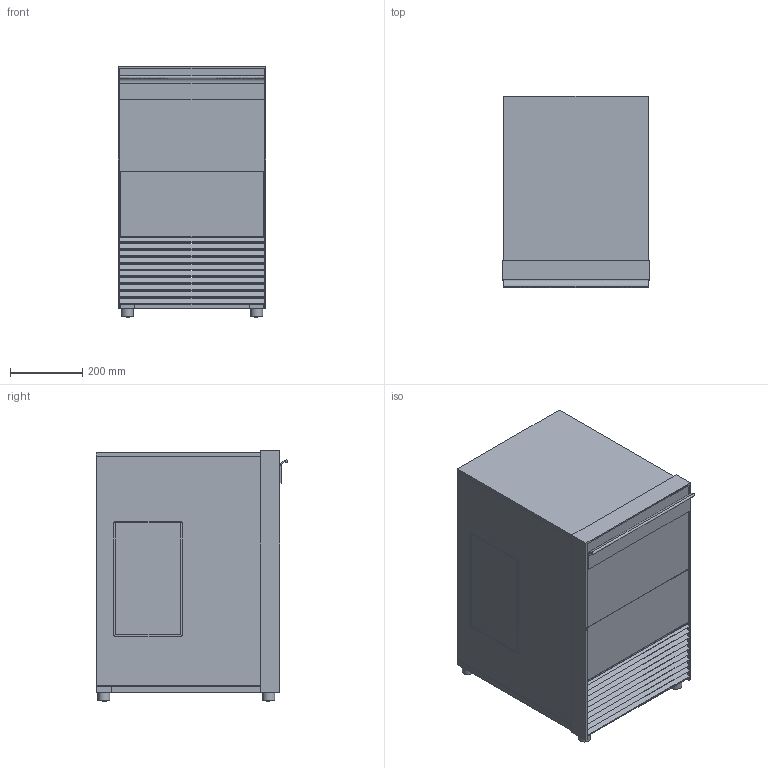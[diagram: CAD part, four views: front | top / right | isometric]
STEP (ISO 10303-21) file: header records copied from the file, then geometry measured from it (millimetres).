
FILE_DESCRIPTION(/* description */ ('Unknown'),/* implementation_level */ '2;1');
FILE_NAME(/* name */ 'P-15',/* time_stamp */ '2018-04-20T11:34:21+02:00',/* author */ ('Unknown'),/* organization */ ('Unknown'),/* preprocessor_version */ 'ST-DEVELOPER v16.7',/* originating_system */ 'DEX',/* authorisation */ $);
FILE_SCHEMA (('CONFIG_CONTROL_DESIGN'));
Length unit declared in the file: millimetre
Products named in the file (33): P-15; 1; 2; 3; 4; 5; 6; 7; 8; 9; 10; 11; 12; 13; 14; 15; 16; 17; 20; 21; 22; 23; 24; 25; 26; 27; 28; 29; 30; 31; 32; 33; 34
Assembly tree (32 placements, depth 2):
  P-15
    1
    2
    3
    4
    5
    6
    7
    8
    9
    10
    11
    12
    13
    14
    15
    16
    17
    20
    21
    22
    23
    24
    25
    26
    27
    28
    29
    30
    31
    32
    33
    34
Bounding box: 410 x 531.64 x 694.7 mm (x, y, z)
Volume: 3897183.1 mm3; surface area: 3635134.8 mm2
Topology: 32 solids, 32 shells, 491 faces, 1451 edges, 929 vertices
Faces by surface type: plane 279, cylinder 139, torus 68, sphere 4, bspline 1
Full cylindrical faces by diameter (mm): 2 x91, 20 x4, 30 x2, 31 x4, 33 x4
Entity records: 14301 total; most frequent: CARTESIAN_POINT 2861, DIRECTION 2136, ORIENTED_EDGE 1832, EDGE_CURVE 916, EDGE_LOOP 882, FACE_BOUND 882, AXIS2_PLACEMENT_3D 801, VERTEX_POINT 704
